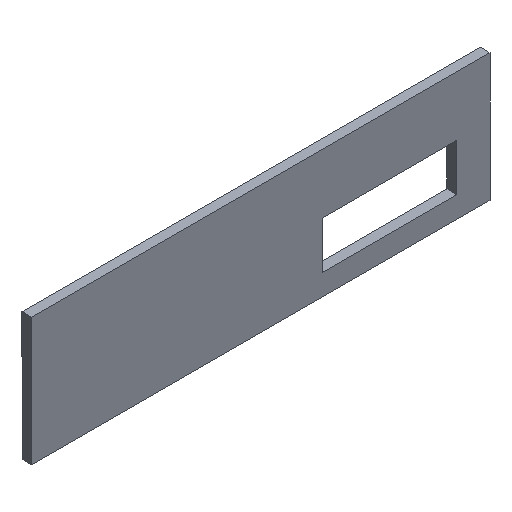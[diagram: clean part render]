
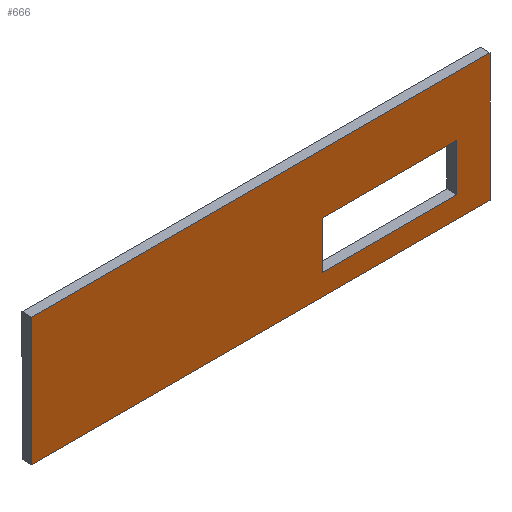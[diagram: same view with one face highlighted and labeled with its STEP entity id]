
A CAD part, isometric view. The second image highlights one B-rep face of the part: STEP entity #666.
In plain terms, the highlighted planar face has unit normal (0, -1, 0) as drawn and (0, 0, 1) by its records, which use the part's own axes.
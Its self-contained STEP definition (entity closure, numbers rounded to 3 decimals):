
#42 = VERTEX_POINT('',#43);
#43 = CARTESIAN_POINT('',(-69.45,-19.38,2.995));
#50 = PLANE('',#51);
#51 = AXIS2_PLACEMENT_3D('',#52,#53,#54);
#52 = CARTESIAN_POINT('',(-69.45,-19.38,0.));
#53 = DIRECTION('',(-1.,0.,0.));
#54 = DIRECTION('',(0.,1.,0.));
#62 = PLANE('',#63);
#63 = AXIS2_PLACEMENT_3D('',#64,#65,#66);
#64 = CARTESIAN_POINT('',(-69.45,-19.38,0.));
#65 = DIRECTION('',(0.,1.,0.));
#66 = DIRECTION('',(1.,0.,0.));
#74 = EDGE_CURVE('',#42,#75,#77,.T.);
#75 = VERTEX_POINT('',#76);
#76 = CARTESIAN_POINT('',(-69.45,19.38,2.995));
#77 = SURFACE_CURVE('',#78,(#82,#89),.PCURVE_S1.);
#78 = LINE('',#79,#80);
#79 = CARTESIAN_POINT('',(-69.45,0.,2.995));
#80 = VECTOR('',#81,1.);
#81 = DIRECTION('',(0.,1.,0.));
#82 = PCURVE('',#50,#83);
#83 = DEFINITIONAL_REPRESENTATION('',(#84),#88);
#84 = LINE('',#85,#86);
#85 = CARTESIAN_POINT('',(19.38,-2.995));
#86 = VECTOR('',#87,1.);
#87 = DIRECTION('',(1.,0.));
#88 = ( GEOMETRIC_REPRESENTATION_CONTEXT(2) 
PARAMETRIC_REPRESENTATION_CONTEXT() REPRESENTATION_CONTEXT('2D SPACE',''
  ) );
#89 = PCURVE('',#90,#95);
#90 = PLANE('',#91);
#91 = AXIS2_PLACEMENT_3D('',#92,#93,#94);
#92 = CARTESIAN_POINT('',(0.,0.,2.995));
#93 = DIRECTION('',(0.,0.,1.));
#94 = DIRECTION('',(1.,0.,0.));
#95 = DEFINITIONAL_REPRESENTATION('',(#96),#100);
#96 = LINE('',#97,#98);
#97 = CARTESIAN_POINT('',(-69.45,0.));
#98 = VECTOR('',#99,1.);
#99 = DIRECTION('',(0.,1.));
#100 = ( GEOMETRIC_REPRESENTATION_CONTEXT(2) 
PARAMETRIC_REPRESENTATION_CONTEXT() REPRESENTATION_CONTEXT('2D SPACE',''
  ) );
#118 = PLANE('',#119);
#119 = AXIS2_PLACEMENT_3D('',#120,#121,#122);
#120 = CARTESIAN_POINT('',(-69.45,19.38,0.));
#121 = DIRECTION('',(0.,1.,0.));
#122 = DIRECTION('',(1.,0.,0.));
#160 = EDGE_CURVE('',#42,#161,#163,.T.);
#161 = VERTEX_POINT('',#162);
#162 = CARTESIAN_POINT('',(69.45,-19.38,2.995));
#163 = SURFACE_CURVE('',#164,(#168,#175),.PCURVE_S1.);
#164 = LINE('',#165,#166);
#165 = CARTESIAN_POINT('',(0.,-19.38,2.995));
#166 = VECTOR('',#167,1.);
#167 = DIRECTION('',(1.,0.,0.));
#168 = PCURVE('',#62,#169);
#169 = DEFINITIONAL_REPRESENTATION('',(#170),#174);
#170 = LINE('',#171,#172);
#171 = CARTESIAN_POINT('',(69.45,-2.995));
#172 = VECTOR('',#173,1.);
#173 = DIRECTION('',(1.,0.));
#174 = ( GEOMETRIC_REPRESENTATION_CONTEXT(2) 
PARAMETRIC_REPRESENTATION_CONTEXT() REPRESENTATION_CONTEXT('2D SPACE',''
  ) );
#175 = PCURVE('',#90,#176);
#176 = DEFINITIONAL_REPRESENTATION('',(#177),#181);
#177 = LINE('',#178,#179);
#178 = CARTESIAN_POINT('',(0.,-19.38));
#179 = VECTOR('',#180,1.);
#180 = DIRECTION('',(1.,0.));
#181 = ( GEOMETRIC_REPRESENTATION_CONTEXT(2) 
PARAMETRIC_REPRESENTATION_CONTEXT() REPRESENTATION_CONTEXT('2D SPACE',''
  ) );
#199 = PLANE('',#200);
#200 = AXIS2_PLACEMENT_3D('',#201,#202,#203);
#201 = CARTESIAN_POINT('',(69.45,-19.38,0.));
#202 = DIRECTION('',(-1.,0.,0.));
#203 = DIRECTION('',(0.,1.,0.));
#236 = EDGE_CURVE('',#75,#237,#239,.T.);
#237 = VERTEX_POINT('',#238);
#238 = CARTESIAN_POINT('',(69.45,19.38,2.995));
#239 = SURFACE_CURVE('',#240,(#244,#251),.PCURVE_S1.);
#240 = LINE('',#241,#242);
#241 = CARTESIAN_POINT('',(0.,19.38,2.995));
#242 = VECTOR('',#243,1.);
#243 = DIRECTION('',(1.,0.,0.));
#244 = PCURVE('',#118,#245);
#245 = DEFINITIONAL_REPRESENTATION('',(#246),#250);
#246 = LINE('',#247,#248);
#247 = CARTESIAN_POINT('',(69.45,-2.995));
#248 = VECTOR('',#249,1.);
#249 = DIRECTION('',(1.,0.));
#250 = ( GEOMETRIC_REPRESENTATION_CONTEXT(2) 
PARAMETRIC_REPRESENTATION_CONTEXT() REPRESENTATION_CONTEXT('2D SPACE',''
  ) );
#251 = PCURVE('',#90,#252);
#252 = DEFINITIONAL_REPRESENTATION('',(#253),#257);
#253 = LINE('',#254,#255);
#254 = CARTESIAN_POINT('',(0.,19.38));
#255 = VECTOR('',#256,1.);
#256 = DIRECTION('',(1.,0.));
#257 = ( GEOMETRIC_REPRESENTATION_CONTEXT(2) 
PARAMETRIC_REPRESENTATION_CONTEXT() REPRESENTATION_CONTEXT('2D SPACE',''
  ) );
#307 = EDGE_CURVE('',#161,#237,#308,.T.);
#308 = SURFACE_CURVE('',#309,(#313,#320),.PCURVE_S1.);
#309 = LINE('',#310,#311);
#310 = CARTESIAN_POINT('',(69.45,0.,2.995));
#311 = VECTOR('',#312,1.);
#312 = DIRECTION('',(0.,1.,0.));
#313 = PCURVE('',#199,#314);
#314 = DEFINITIONAL_REPRESENTATION('',(#315),#319);
#315 = LINE('',#316,#317);
#316 = CARTESIAN_POINT('',(19.38,-2.995));
#317 = VECTOR('',#318,1.);
#318 = DIRECTION('',(1.,0.));
#319 = ( GEOMETRIC_REPRESENTATION_CONTEXT(2) 
PARAMETRIC_REPRESENTATION_CONTEXT() REPRESENTATION_CONTEXT('2D SPACE',''
  ) );
#320 = PCURVE('',#90,#321);
#321 = DEFINITIONAL_REPRESENTATION('',(#322),#326);
#322 = LINE('',#323,#324);
#323 = CARTESIAN_POINT('',(69.45,0.));
#324 = VECTOR('',#325,1.);
#325 = DIRECTION('',(0.,1.));
#326 = ( GEOMETRIC_REPRESENTATION_CONTEXT(2) 
PARAMETRIC_REPRESENTATION_CONTEXT() REPRESENTATION_CONTEXT('2D SPACE',''
  ) );
#356 = VERTEX_POINT('',#357);
#357 = CARTESIAN_POINT('',(18.6,-12.88,2.995));
#364 = PLANE('',#365);
#365 = AXIS2_PLACEMENT_3D('',#366,#367,#368);
#366 = CARTESIAN_POINT('',(18.6,-12.88,0.));
#367 = DIRECTION('',(0.,1.,0.));
#368 = DIRECTION('',(1.,0.,0.));
#376 = PLANE('',#377);
#377 = AXIS2_PLACEMENT_3D('',#378,#379,#380);
#378 = CARTESIAN_POINT('',(18.6,-12.88,0.));
#379 = DIRECTION('',(-1.,0.,0.));
#380 = DIRECTION('',(0.,1.,0.));
#388 = EDGE_CURVE('',#356,#389,#391,.T.);
#389 = VERTEX_POINT('',#390);
#390 = CARTESIAN_POINT('',(59.4,-12.88,2.995));
#391 = SURFACE_CURVE('',#392,(#396,#403),.PCURVE_S1.);
#392 = LINE('',#393,#394);
#393 = CARTESIAN_POINT('',(39.,-12.88,2.995));
#394 = VECTOR('',#395,1.);
#395 = DIRECTION('',(1.,0.,0.));
#396 = PCURVE('',#364,#397);
#397 = DEFINITIONAL_REPRESENTATION('',(#398),#402);
#398 = LINE('',#399,#400);
#399 = CARTESIAN_POINT('',(20.4,-2.995));
#400 = VECTOR('',#401,1.);
#401 = DIRECTION('',(1.,0.));
#402 = ( GEOMETRIC_REPRESENTATION_CONTEXT(2) 
PARAMETRIC_REPRESENTATION_CONTEXT() REPRESENTATION_CONTEXT('2D SPACE',''
  ) );
#403 = PCURVE('',#90,#404);
#404 = DEFINITIONAL_REPRESENTATION('',(#405),#409);
#405 = LINE('',#406,#407);
#406 = CARTESIAN_POINT('',(39.,-12.88));
#407 = VECTOR('',#408,1.);
#408 = DIRECTION('',(1.,0.));
#409 = ( GEOMETRIC_REPRESENTATION_CONTEXT(2) 
PARAMETRIC_REPRESENTATION_CONTEXT() REPRESENTATION_CONTEXT('2D SPACE',''
  ) );
#427 = PLANE('',#428);
#428 = AXIS2_PLACEMENT_3D('',#429,#430,#431);
#429 = CARTESIAN_POINT('',(59.4,-12.88,0.));
#430 = DIRECTION('',(-1.,0.,0.));
#431 = DIRECTION('',(0.,1.,0.));
#464 = EDGE_CURVE('',#389,#465,#467,.T.);
#465 = VERTEX_POINT('',#466);
#466 = CARTESIAN_POINT('',(59.4,1.42,2.995));
#467 = SURFACE_CURVE('',#468,(#472,#479),.PCURVE_S1.);
#468 = LINE('',#469,#470);
#469 = CARTESIAN_POINT('',(59.4,-5.73,2.995));
#470 = VECTOR('',#471,1.);
#471 = DIRECTION('',(0.,1.,0.));
#472 = PCURVE('',#427,#473);
#473 = DEFINITIONAL_REPRESENTATION('',(#474),#478);
#474 = LINE('',#475,#476);
#475 = CARTESIAN_POINT('',(7.15,-2.995));
#476 = VECTOR('',#477,1.);
#477 = DIRECTION('',(1.,0.));
#478 = ( GEOMETRIC_REPRESENTATION_CONTEXT(2) 
PARAMETRIC_REPRESENTATION_CONTEXT() REPRESENTATION_CONTEXT('2D SPACE',''
  ) );
#479 = PCURVE('',#90,#480);
#480 = DEFINITIONAL_REPRESENTATION('',(#481),#485);
#481 = LINE('',#482,#483);
#482 = CARTESIAN_POINT('',(59.4,-5.73));
#483 = VECTOR('',#484,1.);
#484 = DIRECTION('',(0.,1.));
#485 = ( GEOMETRIC_REPRESENTATION_CONTEXT(2) 
PARAMETRIC_REPRESENTATION_CONTEXT() REPRESENTATION_CONTEXT('2D SPACE',''
  ) );
#503 = PLANE('',#504);
#504 = AXIS2_PLACEMENT_3D('',#505,#506,#507);
#505 = CARTESIAN_POINT('',(18.6,1.42,0.));
#506 = DIRECTION('',(0.,1.,0.));
#507 = DIRECTION('',(1.,0.,0.));
#542 = VERTEX_POINT('',#543);
#543 = CARTESIAN_POINT('',(18.6,1.42,2.995));
#564 = EDGE_CURVE('',#542,#465,#565,.T.);
#565 = SURFACE_CURVE('',#566,(#570,#577),.PCURVE_S1.);
#566 = LINE('',#567,#568);
#567 = CARTESIAN_POINT('',(39.,1.42,2.995));
#568 = VECTOR('',#569,1.);
#569 = DIRECTION('',(1.,0.,0.));
#570 = PCURVE('',#503,#571);
#571 = DEFINITIONAL_REPRESENTATION('',(#572),#576);
#572 = LINE('',#573,#574);
#573 = CARTESIAN_POINT('',(20.4,-2.995));
#574 = VECTOR('',#575,1.);
#575 = DIRECTION('',(1.,0.));
#576 = ( GEOMETRIC_REPRESENTATION_CONTEXT(2) 
PARAMETRIC_REPRESENTATION_CONTEXT() REPRESENTATION_CONTEXT('2D SPACE',''
  ) );
#577 = PCURVE('',#90,#578);
#578 = DEFINITIONAL_REPRESENTATION('',(#579),#583);
#579 = LINE('',#580,#581);
#580 = CARTESIAN_POINT('',(39.,1.42));
#581 = VECTOR('',#582,1.);
#582 = DIRECTION('',(1.,0.));
#583 = ( GEOMETRIC_REPRESENTATION_CONTEXT(2) 
PARAMETRIC_REPRESENTATION_CONTEXT() REPRESENTATION_CONTEXT('2D SPACE',''
  ) );
#611 = EDGE_CURVE('',#356,#542,#612,.T.);
#612 = SURFACE_CURVE('',#613,(#617,#624),.PCURVE_S1.);
#613 = LINE('',#614,#615);
#614 = CARTESIAN_POINT('',(18.6,-5.73,2.995));
#615 = VECTOR('',#616,1.);
#616 = DIRECTION('',(0.,1.,0.));
#617 = PCURVE('',#376,#618);
#618 = DEFINITIONAL_REPRESENTATION('',(#619),#623);
#619 = LINE('',#620,#621);
#620 = CARTESIAN_POINT('',(7.15,-2.995));
#621 = VECTOR('',#622,1.);
#622 = DIRECTION('',(1.,0.));
#623 = ( GEOMETRIC_REPRESENTATION_CONTEXT(2) 
PARAMETRIC_REPRESENTATION_CONTEXT() REPRESENTATION_CONTEXT('2D SPACE',''
  ) );
#624 = PCURVE('',#90,#625);
#625 = DEFINITIONAL_REPRESENTATION('',(#626),#630);
#626 = LINE('',#627,#628);
#627 = CARTESIAN_POINT('',(18.6,-5.73));
#628 = VECTOR('',#629,1.);
#629 = DIRECTION('',(0.,1.));
#630 = ( GEOMETRIC_REPRESENTATION_CONTEXT(2) 
PARAMETRIC_REPRESENTATION_CONTEXT() REPRESENTATION_CONTEXT('2D SPACE',''
  ) );
#666 = ADVANCED_FACE('',(#667,#673),#90,.T.);
#667 = FACE_BOUND('',#668,.T.);
#668 = EDGE_LOOP('',(#669,#670,#671,#672));
#669 = ORIENTED_EDGE('',*,*,#74,.F.);
#670 = ORIENTED_EDGE('',*,*,#160,.T.);
#671 = ORIENTED_EDGE('',*,*,#307,.T.);
#672 = ORIENTED_EDGE('',*,*,#236,.F.);
#673 = FACE_BOUND('',#674,.T.);
#674 = EDGE_LOOP('',(#675,#676,#677,#678));
#675 = ORIENTED_EDGE('',*,*,#388,.F.);
#676 = ORIENTED_EDGE('',*,*,#611,.T.);
#677 = ORIENTED_EDGE('',*,*,#564,.T.);
#678 = ORIENTED_EDGE('',*,*,#464,.F.);
